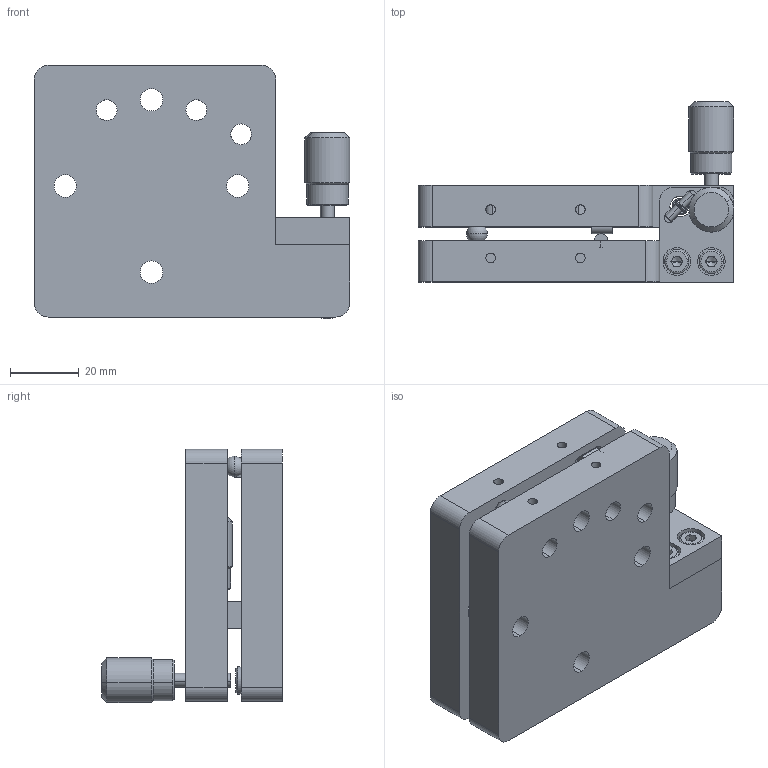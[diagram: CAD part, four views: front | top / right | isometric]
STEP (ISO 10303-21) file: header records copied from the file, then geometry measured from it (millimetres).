
FILE_DESCRIPTION (( 'STEP AP203' ), '1' );
FILE_NAME ('7SIM0503倾斜台.STEP', '2019-09-29T01:21:42', ( '' ), ( '' ), 'SwSTEP 2.0', 'SolidWorks 2014', '' );
FILE_SCHEMA (( 'CONFIG_CONTROL_DESIGN' ));
Length unit declared in the file: millimetre
Products named in the file (1): 7SIM0503ъ訇怢
Bounding box: 91.5 x 52.43 x 73.48 mm (x, y, z)
Surface area: 40061.7 mm2 (no closed solid volume)
Topology: 0 solids, 23 shells, 252 faces, 746 edges, 494 vertices
Faces by surface type: cylinder 138, plane 65, cone 34, torus 10, bspline 3, sphere 2
Entity records: 11441 total; most frequent: CARTESIAN_POINT 4366, DIRECTION 1580, ORIENTED_EDGE 1295, EDGE_CURVE 733, AXIS2_PLACEMENT_3D 633, VERTEX_POINT 491, CIRCLE 383, EDGE_LOOP 348
